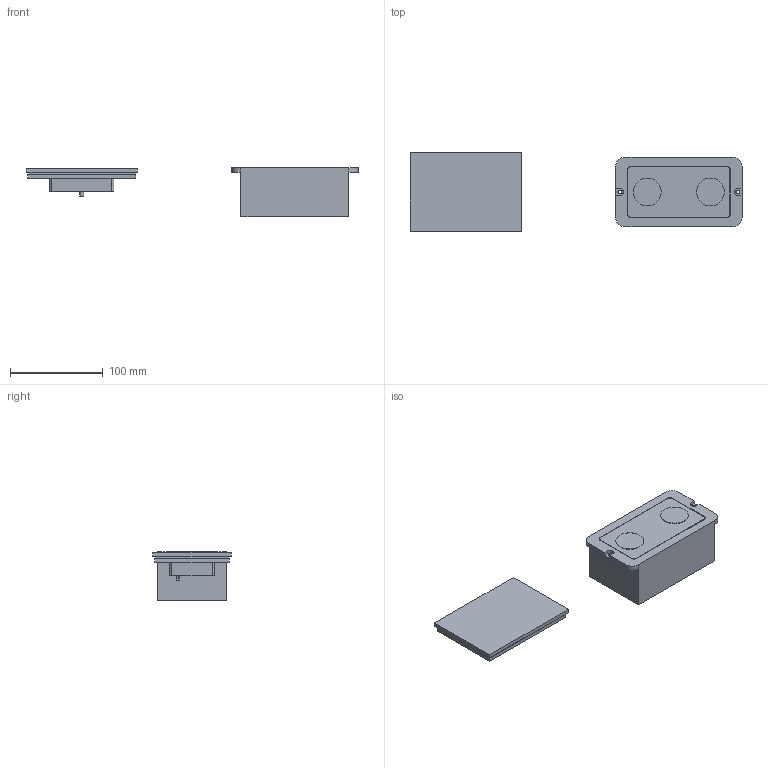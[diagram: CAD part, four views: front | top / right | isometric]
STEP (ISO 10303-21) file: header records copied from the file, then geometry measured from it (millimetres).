
FILE_DESCRIPTION (( 'STEP AP203' ), '1' );
FILE_NAME ('50.226.51.STEP', '2024-10-31T14:27:54', ( '' ), ( '' ), 'SwSTEP 2.0', 'SolidWorks 2023', '' );
FILE_SCHEMA (( 'CONFIG_CONTROL_DESIGN' ));
Length unit declared in the file: millimetre
Products named in the file (4): 50.226.51-3; 50.226.51-2; 50.226.51-1; 50.226.51
Assembly tree (3 placements, depth 2):
  50.226.51
    50.226.51-2
    50.226.51-1
    50.226.51-3
Bounding box: 357.4 x 84 x 53.7 mm (x, y, z)
Volume: 609687.1 mm3; surface area: 90769.1 mm2
Topology: 3 solids, 3 shells, 146 faces, 365 edges, 242 vertices
Faces by surface type: plane 81, cylinder 65
Entity records: 4829 total; most frequent: DIRECTION 799, CARTESIAN_POINT 759, ORIENTED_EDGE 730, EDGE_CURVE 365, AXIS2_PLACEMENT_3D 282, VERTEX_POINT 242, LINE 235, VECTOR 235
